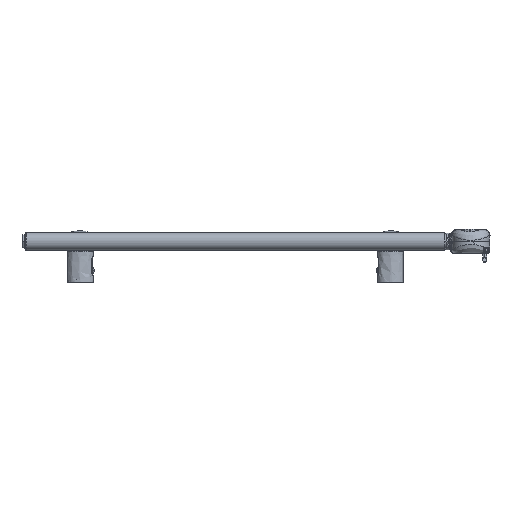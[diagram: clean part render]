
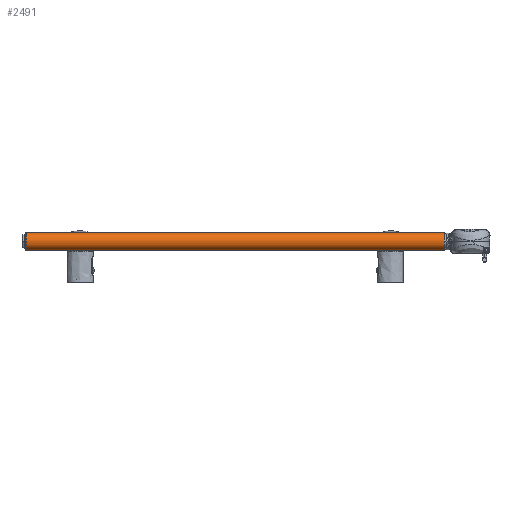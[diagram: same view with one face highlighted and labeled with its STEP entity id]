
A CAD part, left-side view. The second image highlights one B-rep face of the part: STEP entity #2491.
In plain terms, the highlighted cylindrical face has radius 15 mm (diameter 30 mm), a partial arc.
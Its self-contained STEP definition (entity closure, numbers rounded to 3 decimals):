
#937=DIRECTION('',(0.,1.,0.));
#938=VECTOR('',#937,698.4);
#939=CARTESIAN_POINT('',(-235.,-349.2,-15.));
#940=LINE('',#939,#938);
#1048=DIRECTION('',(0.,-1.,0.));
#1049=VECTOR('',#1048,698.4);
#1050=CARTESIAN_POINT('',(-235.,349.2,15.));
#1051=LINE('',#1050,#1049);
#1148=CARTESIAN_POINT('',(-235.,349.2,0.));
#1149=DIRECTION('',(0.,-1.,0.));
#1150=DIRECTION('',(0.,0.,1.));
#1151=AXIS2_PLACEMENT_3D('',#1148,#1149,#1150);
#1156=CARTESIAN_POINT('',(-235.,-349.2,0.));
#1157=DIRECTION('',(0.,1.,0.));
#1158=DIRECTION('',(0.,0.,-1.));
#1159=AXIS2_PLACEMENT_3D('',#1156,#1157,#1158);
#1689=CARTESIAN_POINT('',(-235.,349.2,15.));
#1691=VERTEX_POINT('',#1689);
#1696=CARTESIAN_POINT('',(-235.,349.2,-15.));
#1697=VERTEX_POINT('',#1696);
#1714=CARTESIAN_POINT('',(-235.,-349.2,15.));
#1716=VERTEX_POINT('',#1714);
#1718=CARTESIAN_POINT('',(-235.,-349.2,-15.));
#1719=VERTEX_POINT('',#1718);
#2479=CARTESIAN_POINT('',(-235.,1263.241,0.));
#2480=DIRECTION('',(0.,-1.,0.));
#2481=DIRECTION('',(0.,0.,1.));
#2482=AXIS2_PLACEMENT_3D('',#2479,#2480,#2481);
#2483=CYLINDRICAL_SURFACE('',#2482,15.);
#2485=ORIENTED_EDGE('',*,*,#2484,.F.);
#2486=ORIENTED_EDGE('',*,*,#2393,.T.);
#2487=ORIENTED_EDGE('',*,*,#2470,.F.);
#2488=ORIENTED_EDGE('',*,*,#2320,.T.);
#2489=EDGE_LOOP('',(#2485,#2486,#2487,#2488));
#2490=FACE_OUTER_BOUND('',#2489,.F.);
#1152=CIRCLE('',#1151,15.);
#1160=CIRCLE('',#1159,15.);
#2320=EDGE_CURVE('',#1719,#1697,#940,.T.);
#2393=EDGE_CURVE('',#1691,#1716,#1051,.T.);
#2470=EDGE_CURVE('',#1719,#1716,#1160,.T.);
#2484=EDGE_CURVE('',#1691,#1697,#1152,.T.);
#2491=ADVANCED_FACE('',(#2490),#2483,.T.);
